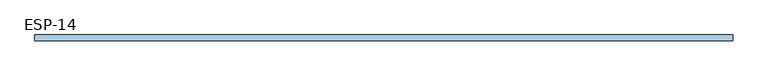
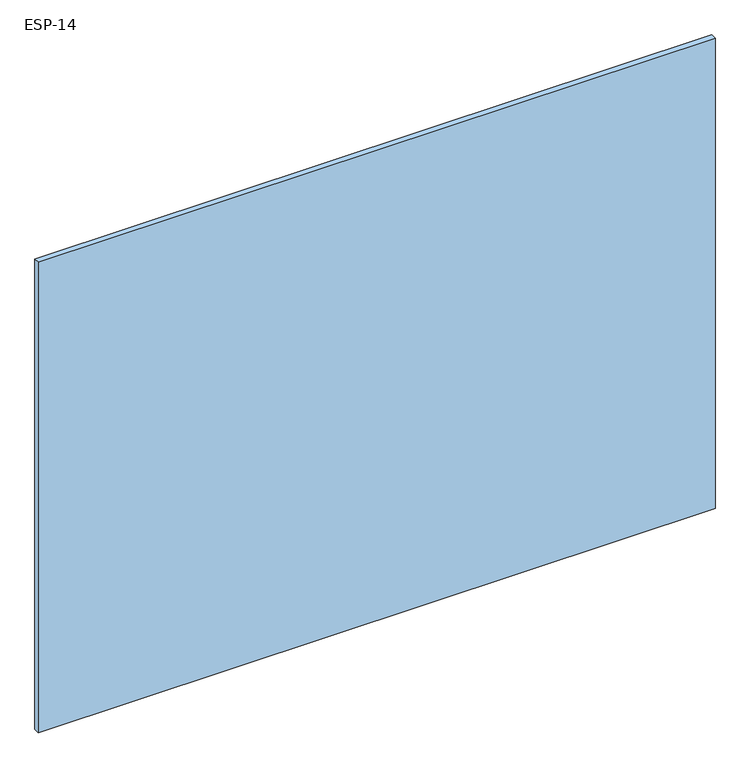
"""IFC4 building model written with IfcOpenShell, lengths in millimetres: window geometry, espejo biselado sin marco : ESP-14."""

from ifc_helpers import new_model, si_unit, origin, origin_with_axes, place, context, project, spatial, polyline, outline, extrude, source, transform, mapped, element, save


def esp_14_774a65f0(model_context):
    return source(origin(), model_context, "Body", "SweptSolid", [
        extrude(outline(polyline([(-680.0, 79.0), (-680.0, 90.0), (680.0, 90.0), (680.0, 79.0), (-680.0, 79.0)])), origin_with_axes(), (0.0, 0.0, 1.0), 1000.0),
    ])


if __name__ == "__main__":
    model = new_model("IFC4")
    model_context = context("Model", 3, world=origin())
    ifc_project = project(units=[si_unit("LENGTHUNIT", "METRE", prefix="MILLI")], contexts=[model_context])
    site = spatial("IfcSite", under=ifc_project)
    building = spatial("IfcBuilding", under=site)
    placement = place(None, origin())
    esp_14_shape = esp_14_774a65f0(model_context)
    element("IfcWindow", 1, ObjectType="espejo biselado sin marco : ESP-14", at=placement, inside=building, context=model_context, shape_type="MappedRepresentation", body=[
        mapped(esp_14_shape, transform((0.0, 0.0, 0.0), x_axis=(1.0, 0.0, 0.0), y_axis=(0.0, 1.0, 0.0), z_axis=(0.0, 0.0, 1.0))),
    ])
    save(model, "model.ifc")
